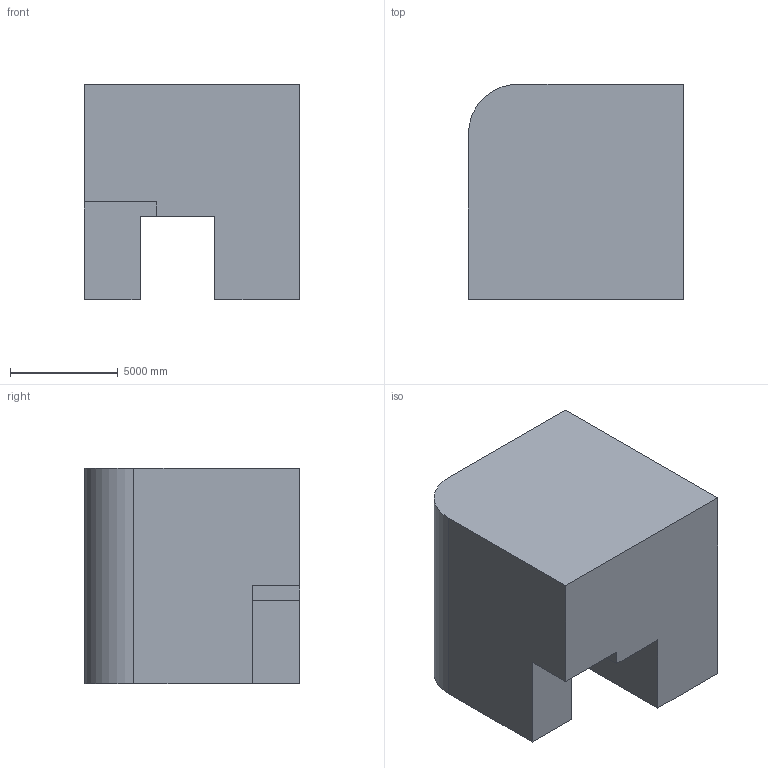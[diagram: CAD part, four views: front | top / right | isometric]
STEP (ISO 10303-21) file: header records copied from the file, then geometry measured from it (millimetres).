
FILE_DESCRIPTION (( 'STEP AP203' ), '1' );
FILE_NAME ('1313.STEP', '2022-08-18T13:42:37', ( 'user' ), ( '' ), 'SwSTEP 2.0', 'SolidWorks 2021', '' );
FILE_SCHEMA (( 'CONFIG_CONTROL_DESIGN' ));
Length unit declared in the file: centimetre
Products named in the file (1): 1313
Bounding box: 10000 x 10000 x 10000 mm (x, y, z)
Volume: 803152389989.2 mm3; surface area: 622796057.2 mm2
Topology: 1 solids, 1 shells, 19 faces, 51 edges, 34 vertices
Faces by surface type: plane 16, cylinder 3
Entity records: 668 total; most frequent: CARTESIAN_POINT 105, ORIENTED_EDGE 102, DIRECTION 97, EDGE_CURVE 51, LINE 45, VECTOR 45, VERTEX_POINT 34, AXIS2_PLACEMENT_3D 26
